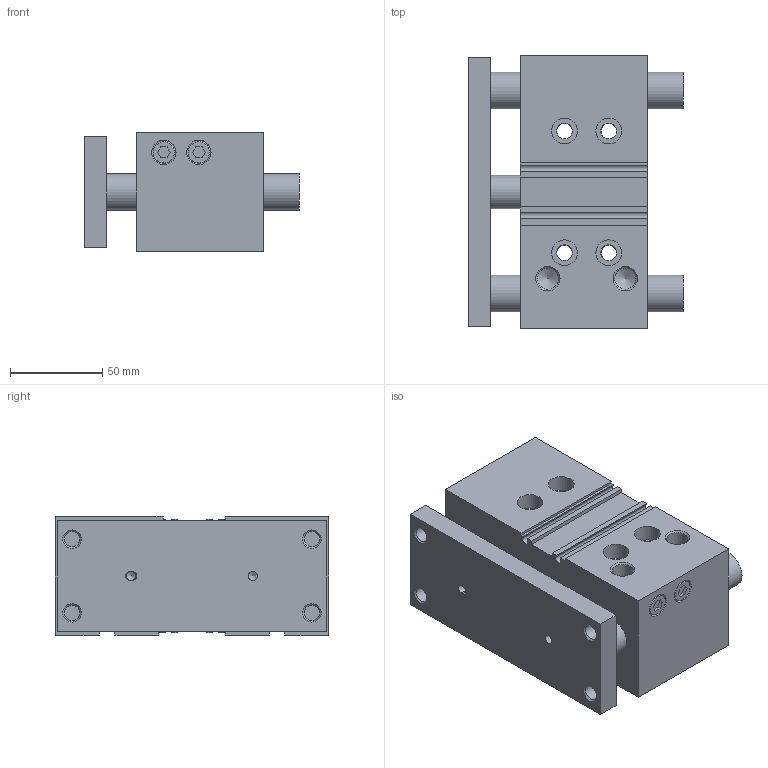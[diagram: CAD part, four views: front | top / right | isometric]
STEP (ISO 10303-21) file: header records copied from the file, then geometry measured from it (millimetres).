
FILE_DESCRIPTION(/* description */ ('STEP AP214'),/* implementation_level */ '2;1');
FILE_NAME(/* name */ 'MGPL50TF-25Z(0_0)',/* time_stamp */ '2025-09-09T08:04:11+02:00',/* author */ ('License CC BY-ND 4.0'),/* organization */ ('CADENAS'),/* preprocessor_version */ 'ST-DEVELOPER v19.3',/* originating_system */ 'PARTsolutions',/* authorisation */ ' ');
FILE_SCHEMA (('AUTOMOTIVE_DESIGN {1 0 10303 214 3 1 1}'));
Length unit declared in the file: millimetre
Products named in the file (4): MGPL50TF-25Z(0_0); MGPL50-25Z(0)_BODY; MGPL50-25Z(0)_ROD; MGP-Z_PLUG_50
Assembly tree (4 placements, depth 2):
  MGPL50TF-25Z(0_0)
    MGPL50-25Z(0)_BODY
    MGPL50-25Z(0)_ROD
    MGP-Z_PLUG_50  x2
Bounding box: 116.5 x 148 x 64 mm (x, y, z)
Volume: 679145.6 mm3; surface area: 128044.2 mm2
Topology: 4 solids, 4 shells, 196 faces, 460 edges, 292 vertices
Faces by surface type: plane 104, cylinder 54, cone 38
Full cylindrical faces by diameter (mm): 5 x6, 8.376 x12, 8.6 x4, 10 x4, 11.445 x4, 13.157 x2, 14 x4, 18 x2, 20 x4, 50 x2
Entity records: 4913 total; most frequent: DIRECTION 848, CARTESIAN_POINT 801, ORIENTED_EDGE 678, EDGE_CURVE 339, AXIS2_PLACEMENT_3D 320, FACE_BOUND 316, EDGE_LOOP 302, VERTEX_POINT 273
